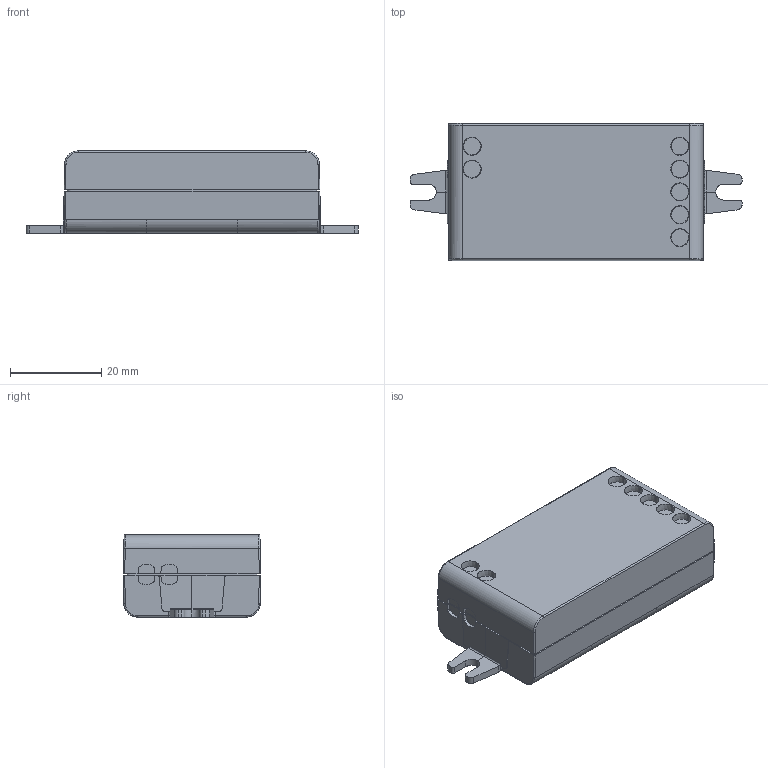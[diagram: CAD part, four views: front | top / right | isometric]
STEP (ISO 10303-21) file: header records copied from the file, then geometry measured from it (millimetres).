
FILE_DESCRIPTION((''),'2;1');
FILE_NAME('15012777Z_DATA72-6X30X18_52ADIM','2018-08-03T10:56:21',('Emanuel.Wild'),(''),'CREO PARAMETRIC BY PTC INC, 2017380','CREO PARAMETRIC BY PTC INC, 2017380','');
FILE_SCHEMA(('AUTOMOTIVE_DESIGN { 1 0 10303 214 1 1 1 1 }'));
Length unit declared in the file: millimetre
Products named in the file (1): 15012777Z_DATA72-6X30X18_52ADIM
Bounding box: 72.6 x 30 x 18 mm (x, y, z)
Volume: 29297.8 mm3; surface area: 6884.7 mm2
Topology: 1 solids, 1 shells, 283 faces, 733 edges, 460 vertices
Faces by surface type: plane 151, bspline 132
Entity records: 12273 total; most frequent: CARTESIAN_POINT 6145, ORIENTED_EDGE 1466, EDGE_CURVE 733, DIRECTION 710, VERTEX_POINT 460, VECTOR 408, LINE 408, B_SPLINE_CURVE_WITH_KNOTS 325
